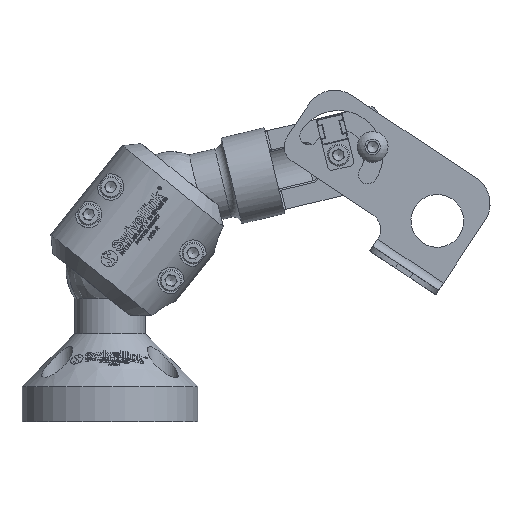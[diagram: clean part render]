
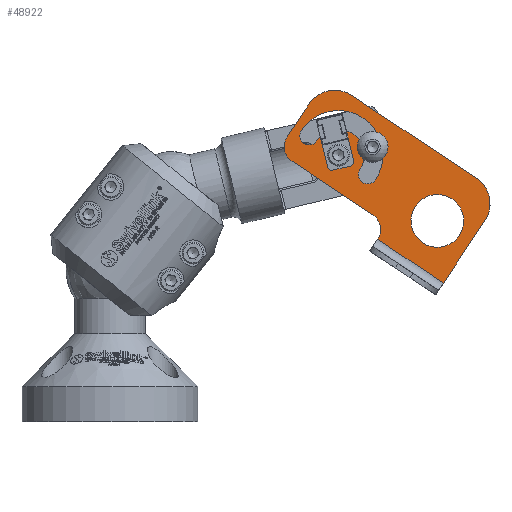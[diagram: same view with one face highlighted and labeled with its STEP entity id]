
A CAD part, front view. The second image highlights one B-rep face of the part: STEP entity #48922.
In plain terms, the highlighted planar face has unit normal (0, -1, 0).
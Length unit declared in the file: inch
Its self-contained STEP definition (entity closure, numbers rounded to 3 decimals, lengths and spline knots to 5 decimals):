
#184 = FACE_OUTER_BOUND ( 'NONE', #19287, .T. ) ;
#707 = FACE_BOUND ( 'NONE', #21141, .T. ) ;
#1156 = LINE ( 'NONE', #8674, #32857 ) ;
#1296 = CARTESIAN_POINT ( 'NONE',  ( 2.25, -0.0747, -0.6875 ) ) ;
#1317 = CARTESIAN_POINT ( 'NONE',  ( 3., -0.0747, -0.5 ) ) ;
#1862 = VECTOR ( 'NONE', #48273, 39.37008 ) ;
#2238 = CIRCLE ( 'NONE', #22673, 0.4375 ) ;
#3200 = EDGE_CURVE ( 'NONE', #27623, #35187, #45384, .T. ) ;
#3330 = DIRECTION ( 'NONE',  ( 0., 0., -1. ) ) ;
#3835 = VERTEX_POINT ( 'NONE', #7996 ) ;
#3857 = EDGE_CURVE ( 'NONE', #40510, #42955, #31211, .T. ) ;
#4101 = ORIENTED_EDGE ( 'NONE', *, *, #8249, .F. ) ;
#4733 = VERTEX_POINT ( 'NONE', #31628 ) ;
#4768 = DIRECTION ( 'NONE',  ( 0., -1., 0. ) ) ;
#5504 = VERTEX_POINT ( 'NONE', #49109 ) ;
#6873 = DIRECTION ( 'NONE',  ( -1., 0., 0. ) ) ;
#6924 = ORIENTED_EDGE ( 'NONE', *, *, #3200, .F. ) ;
#7090 = DIRECTION ( 'NONE',  ( 0., -1., 0. ) ) ;
#7556 = VECTOR ( 'NONE', #39045, 39.37008 ) ;
#7678 = AXIS2_PLACEMENT_3D ( 'NONE', #24030, #37429, #23760 ) ;
#7996 = CARTESIAN_POINT ( 'NONE',  ( 0.5625, -0.0747, -1.0625 ) ) ;
#8249 = EDGE_CURVE ( 'NONE', #9221, #32290, #9848, .T. ) ;
#8674 = CARTESIAN_POINT ( 'NONE',  ( 0., -0.0747, 0. ) ) ;
#8787 = CARTESIAN_POINT ( 'NONE',  ( 2.5625, -0.0747, -1.5 ) ) ;
#8966 = CARTESIAN_POINT ( 'NONE',  ( 2.25, -0.0747, -0.6875 ) ) ;
#9221 = VERTEX_POINT ( 'NONE', #54235 ) ;
#9398 = CIRCLE ( 'NONE', #29890, 0.25 ) ;
#9833 = CARTESIAN_POINT ( 'NONE',  ( 1.617, -0.0747, -0.6875 ) ) ;
#9848 = CIRCLE ( 'NONE', #10742, 0.367 ) ;
#10018 = CARTESIAN_POINT ( 'NONE',  ( 3., -0.0747, 0. ) ) ;
#10537 = VERTEX_POINT ( 'NONE', #9833 ) ;
#10641 = DIRECTION ( 'NONE',  ( 0., -1., 0. ) ) ;
#10742 = AXIS2_PLACEMENT_3D ( 'NONE', #1296, #31375, #39770 ) ;
#11692 = ORIENTED_EDGE ( 'NONE', *, *, #33876, .F. ) ;
#12761 = AXIS2_PLACEMENT_3D ( 'NONE', #16286, #7090, #24656 ) ;
#13450 = CARTESIAN_POINT ( 'NONE',  ( 0., -0.0747, 0. ) ) ;
#13515 = DIRECTION ( 'NONE',  ( 0., -1., 0. ) ) ;
#13907 = CIRCLE ( 'NONE', #19258, 0.633 ) ;
#14936 = CARTESIAN_POINT ( 'NONE',  ( 1.75, -0.0747, -0.6875 ) ) ;
#15028 = DIRECTION ( 'NONE',  ( 0., -1., 0. ) ) ;
#15450 = ORIENTED_EDGE ( 'NONE', *, *, #3857, .F. ) ;
#15498 = CARTESIAN_POINT ( 'NONE',  ( 1.375, -0.0747, 0. ) ) ;
#15618 = CARTESIAN_POINT ( 'NONE',  ( 1.883, -0.0747, -0.6875 ) ) ;
#15684 = ORIENTED_EDGE ( 'NONE', *, *, #22445, .T. ) ;
#15857 = CARTESIAN_POINT ( 'NONE',  ( 3., -0.0747, -1.0625 ) ) ;
#16286 = CARTESIAN_POINT ( 'NONE',  ( 0.5625, -0.0747, -0.6875 ) ) ;
#16432 = EDGE_CURVE ( 'NONE', #27623, #42955, #46812, .T. ) ;
#17547 = VERTEX_POINT ( 'NONE', #24925 ) ;
#18640 = CIRCLE ( 'NONE', #30227, 0.14063 ) ;
#19258 = AXIS2_PLACEMENT_3D ( 'NONE', #46358, #4768, #34042 ) ;
#19287 = EDGE_LOOP ( 'NONE', ( #50476, #26453, #6924, #36122, #15450, #15684, #20024, #48534, #21191 ) ) ;
#19885 = AXIS2_PLACEMENT_3D ( 'NONE', #48052, #10641, #27656 ) ;
#19951 = DIRECTION ( 'NONE',  ( 0., 1., 0. ) ) ;
#20024 = ORIENTED_EDGE ( 'NONE', *, *, #48223, .F. ) ;
#21141 = EDGE_LOOP ( 'NONE', ( #41066 ) ) ;
#21191 = ORIENTED_EDGE ( 'NONE', *, *, #33081, .F. ) ;
#22320 = CARTESIAN_POINT ( 'NONE',  ( 1.375, -0.0747, -0.25 ) ) ;
#22445 = EDGE_CURVE ( 'NONE', #40510, #17547, #29068, .T. ) ;
#22673 = AXIS2_PLACEMENT_3D ( 'NONE', #53244, #15028, #27857 ) ;
#23760 = DIRECTION ( 'NONE',  ( 0., 0., -1. ) ) ;
#23814 = CARTESIAN_POINT ( 'NONE',  ( 2.5625, -0.0747, -1.0625 ) ) ;
#24030 = CARTESIAN_POINT ( 'NONE',  ( 2.75, -0.0747, -0.5 ) ) ;
#24343 = VECTOR ( 'NONE', #34616, 39.37008 ) ;
#24485 = VERTEX_POINT ( 'NONE', #22320 ) ;
#24656 = DIRECTION ( 'NONE',  ( 0., 0., -1. ) ) ;
#24925 = CARTESIAN_POINT ( 'NONE',  ( 2.75, -0.0747, -0.25 ) ) ;
#24964 = ORIENTED_EDGE ( 'NONE', *, *, #44804, .F. ) ;
#26242 = AXIS2_PLACEMENT_3D ( 'NONE', #41545, #13515, #3330 ) ;
#26453 = ORIENTED_EDGE ( 'NONE', *, *, #48739, .T. ) ;
#26558 = CARTESIAN_POINT ( 'NONE',  ( 0.4375, -0.0747, -1.5 ) ) ;
#26759 = EDGE_CURVE ( 'NONE', #24485, #5504, #9398, .T. ) ;
#27623 = VERTEX_POINT ( 'NONE', #8787 ) ;
#27656 = DIRECTION ( 'NONE',  ( 0., 0., -1. ) ) ;
#27857 = DIRECTION ( 'NONE',  ( 0., 0., -1. ) ) ;
#27882 = CIRCLE ( 'NONE', #19885, 0.133 ) ;
#28041 = EDGE_CURVE ( 'NONE', #10537, #4733, #13907, .T. ) ;
#29068 = CIRCLE ( 'NONE', #7678, 0.25 ) ;
#29745 = ORIENTED_EDGE ( 'NONE', *, *, #28041, .F. ) ;
#29890 = AXIS2_PLACEMENT_3D ( 'NONE', #15498, #19951, #49544 ) ;
#29901 = DIRECTION ( 'NONE',  ( 0., 0., -1. ) ) ;
#30113 = LINE ( 'NONE', #47161, #7556 ) ;
#30168 = EDGE_LOOP ( 'NONE', ( #24964 ) ) ;
#30227 = AXIS2_PLACEMENT_3D ( 'NONE', #8966, #34345, #29901 ) ;
#30978 = CARTESIAN_POINT ( 'NONE',  ( 1.125, -0.0747, -0.25 ) ) ;
#31211 = LINE ( 'NONE', #10018, #1862 ) ;
#31316 = CIRCLE ( 'NONE', #12761, 0.375 ) ;
#31375 = DIRECTION ( 'NONE',  ( 0., 1., 0. ) ) ;
#31628 = CARTESIAN_POINT ( 'NONE',  ( 2.883, -0.0747, -0.6875 ) ) ;
#32239 = CARTESIAN_POINT ( 'NONE',  ( 0., -0.0747, -1.5 ) ) ;
#32290 = VERTEX_POINT ( 'NONE', #15618 ) ;
#32857 = VECTOR ( 'NONE', #51648, 39.37008 ) ;
#33081 = EDGE_CURVE ( 'NONE', #40824, #5504, #1156, .T. ) ;
#33876 = EDGE_CURVE ( 'NONE', #32290, #10537, #51472, .T. ) ;
#34042 = DIRECTION ( 'NONE',  ( 0., 0., -1. ) ) ;
#34345 = DIRECTION ( 'NONE',  ( 0., -1., 0. ) ) ;
#34616 = DIRECTION ( 'NONE',  ( 1., 0., 0. ) ) ;
#35187 = VERTEX_POINT ( 'NONE', #26558 ) ;
#35688 = VERTEX_POINT ( 'NONE', #52725 ) ;
#36122 = ORIENTED_EDGE ( 'NONE', *, *, #16432, .T. ) ;
#36368 = DIRECTION ( 'NONE',  ( 0., 0., -1. ) ) ;
#37429 = DIRECTION ( 'NONE',  ( 0., -1., 0. ) ) ;
#38410 = EDGE_CURVE ( 'NONE', #35688, #35688, #18640, .T. ) ;
#38905 = PLANE ( 'NONE',  #26242 ) ;
#39045 = DIRECTION ( 'NONE',  ( 0., 0., 1. ) ) ;
#39770 = DIRECTION ( 'NONE',  ( 0., 0., -1. ) ) ;
#40294 = DIRECTION ( 'NONE',  ( 0., -1., 0. ) ) ;
#40510 = VERTEX_POINT ( 'NONE', #1317 ) ;
#40824 = VERTEX_POINT ( 'NONE', #13450 ) ;
#41066 = ORIENTED_EDGE ( 'NONE', *, *, #38410, .F. ) ;
#41545 = CARTESIAN_POINT ( 'NONE',  ( 0., -0.0747, 0. ) ) ;
#42955 = VERTEX_POINT ( 'NONE', #15857 ) ;
#43837 = ORIENTED_EDGE ( 'NONE', *, *, #44957, .F. ) ;
#43859 = LINE ( 'NONE', #30978, #24343 ) ;
#44259 = CARTESIAN_POINT ( 'NONE',  ( 0., -0.0747, -1.0625 ) ) ;
#44804 = EDGE_CURVE ( 'NONE', #3835, #3835, #31316, .T. ) ;
#44957 = EDGE_CURVE ( 'NONE', #4733, #9221, #27882, .T. ) ;
#45384 = LINE ( 'NONE', #32239, #48114 ) ;
#46070 = VERTEX_POINT ( 'NONE', #44259 ) ;
#46152 = AXIS2_PLACEMENT_3D ( 'NONE', #14936, #52607, #48992 ) ;
#46358 = CARTESIAN_POINT ( 'NONE',  ( 2.25, -0.0747, -0.6875 ) ) ;
#46812 = CIRCLE ( 'NONE', #49476, 0.4375 ) ;
#47161 = CARTESIAN_POINT ( 'NONE',  ( 0., -0.0747, 0. ) ) ;
#47605 = EDGE_LOOP ( 'NONE', ( #29745, #11692, #4101, #43837 ) ) ;
#48052 = CARTESIAN_POINT ( 'NONE',  ( 2.75, -0.0747, -0.6875 ) ) ;
#48114 = VECTOR ( 'NONE', #6873, 39.37008 ) ;
#48223 = EDGE_CURVE ( 'NONE', #24485, #17547, #43859, .T. ) ;
#48273 = DIRECTION ( 'NONE',  ( 0., 0., -1. ) ) ;
#48534 = ORIENTED_EDGE ( 'NONE', *, *, #26759, .T. ) ;
#48679 = EDGE_CURVE ( 'NONE', #46070, #40824, #30113, .T. ) ;
#48739 = EDGE_CURVE ( 'NONE', #46070, #35187, #2238, .T. ) ;
#48922 = ADVANCED_FACE ( 'NONE', ( #184, #51213, #707, #51740 ), #38905, .T. ) ;
#48992 = DIRECTION ( 'NONE',  ( 0., 0., -1. ) ) ;
#49109 = CARTESIAN_POINT ( 'NONE',  ( 1.125, -0.0747, 0. ) ) ;
#49476 = AXIS2_PLACEMENT_3D ( 'NONE', #23814, #40294, #36368 ) ;
#49544 = DIRECTION ( 'NONE',  ( 0., 0., -1. ) ) ;
#50476 = ORIENTED_EDGE ( 'NONE', *, *, #48679, .F. ) ;
#51213 = FACE_BOUND ( 'NONE', #47605, .T. ) ;
#51472 = CIRCLE ( 'NONE', #46152, 0.133 ) ;
#51648 = DIRECTION ( 'NONE',  ( 1., 0., 0. ) ) ;
#51740 = FACE_BOUND ( 'NONE', #30168, .T. ) ;
#52607 = DIRECTION ( 'NONE',  ( 0., -1., 0. ) ) ;
#52725 = CARTESIAN_POINT ( 'NONE',  ( 2.25, -0.0747, -0.82813 ) ) ;
#53244 = CARTESIAN_POINT ( 'NONE',  ( 0.4375, -0.0747, -1.0625 ) ) ;
#54235 = CARTESIAN_POINT ( 'NONE',  ( 2.617, -0.0747, -0.6875 ) ) ;
